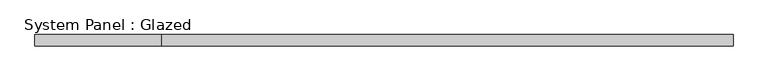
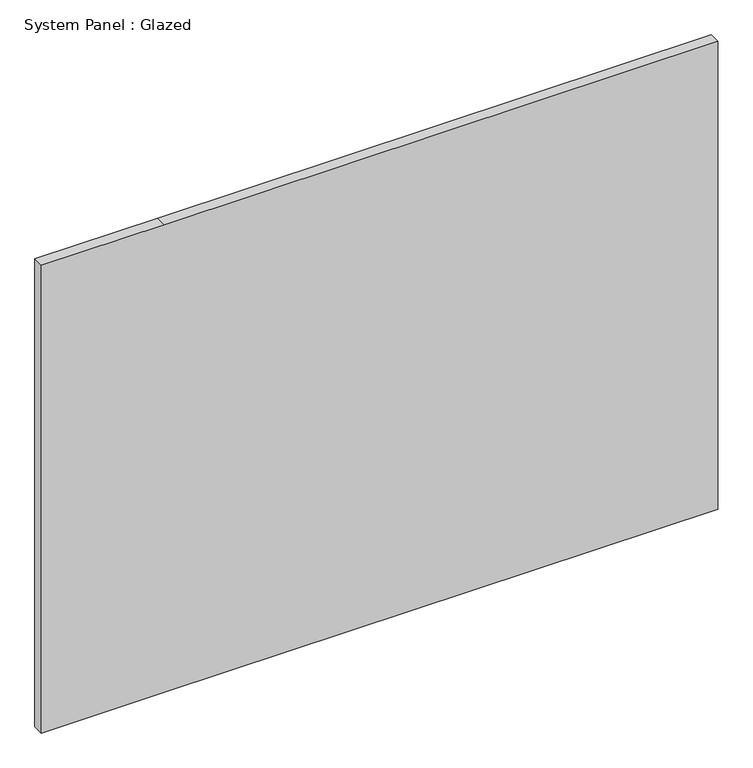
"""IFC4 building model written with IfcOpenShell, lengths in millimetres: plate geometry, System Panel : Glazed."""

from ifc_helpers import new_model, si_unit, frame, origin, place, context, project, spatial, polyline, outline, extrude, source, transform, mapped, element, save


def system_panel_glazed_639f3d85(model_context):
    return source(origin(), model_context, "Body", "SweptSolid", [
        extrude(outline(polyline([(0.0, -768.35), (0.0, -488.95), (0.0, 768.35), (1123.95, 768.35), (1123.95, -488.95), (1123.95, -768.35), (0.0, -768.35)])), frame((0.0, -44.45, 0.0), z_axis=(0.0, 1.0, 0.0), x_axis=(0.0, 0.0, 1.0)), (0.0, 0.0, 1.0), 25.4),
    ])


if __name__ == "__main__":
    model = new_model("IFC4")
    model_context = context("Model", 3, world=origin())
    ifc_project = project(units=[si_unit("LENGTHUNIT", "METRE", prefix="MILLI")], contexts=[model_context])
    site = spatial("IfcSite", under=ifc_project)
    building = spatial("IfcBuilding", under=site)
    placement = place(None, origin())
    system_panel_glazed_shape = system_panel_glazed_639f3d85(model_context)
    element("IfcPlate", 1, ObjectType="System Panel : Glazed", at=placement, inside=building, context=model_context, shape_type="MappedRepresentation", body=[
        mapped(system_panel_glazed_shape, transform((0.0, 0.0, 0.0), x_axis=(1.0, 0.0, 0.0), y_axis=(0.0, 1.0, 0.0), z_axis=(0.0, 0.0, 1.0))),
    ])
    save(model, "model.ifc")
